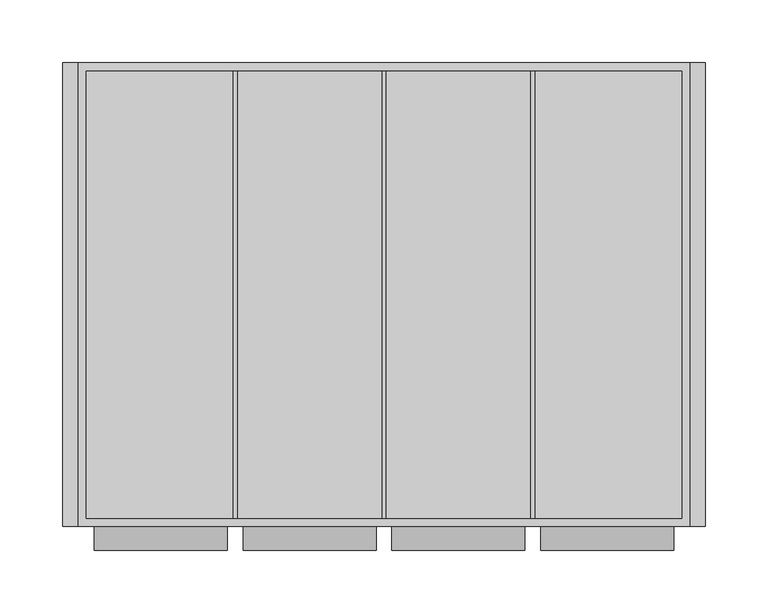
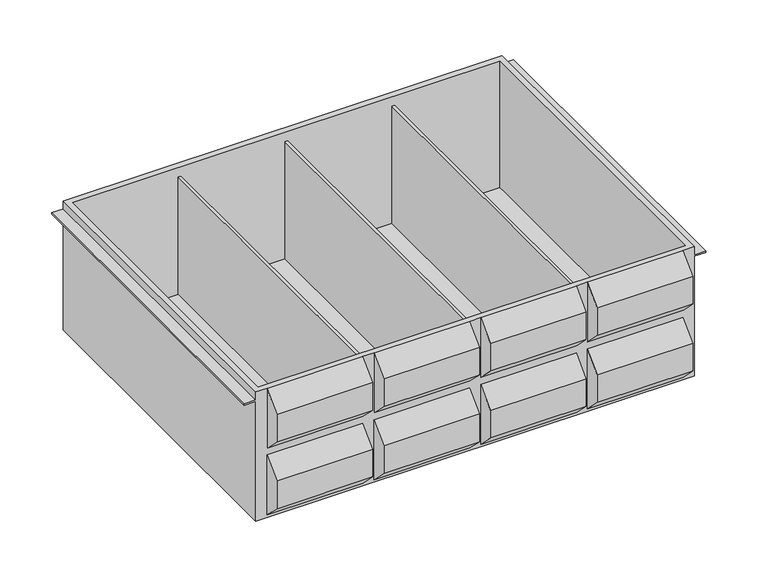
"""IFC4 building model written with IfcOpenShell, lengths in millimetres: furniture geometry, HermanMiller_CoStruc_CO565_Cassette Assembly : 6H x 15D x 20W."""

import ifcopenshell
import ifcopenshell.guid

model = None  # the IFC model being written
_history = None  # IfcOwnerHistory: only IFC2X3 demands one
_inside = {}  # id of a spatial element -> (the spatial element, [elements in it])
_under = {}  # id of a project, library or spatial element -> (it, [spatial elements below it])
_declared = {}  # id of a project -> (the project, [libraries it declares])
_typed = {}  # id of a type object -> (the type object, [elements of that type])
_made_of = {}  # id of a material, layer set ... -> (it, [elements and type objects made of it])


def new_model(schema):
    """Start an empty IFC model of exactly this schema.

    Asked for "IFC4X3", IfcOpenShell would pick the latest addendum, in which some entities
    have other attributes; the version numbers below select the first issue.
    IFC2X3 requires an IfcOwnerHistory on every rooted entity: one is made here for all.
    """
    global model, _history
    if schema == "IFC4X3":
        model = ifcopenshell.file(schema_version=(4, 3, 0, 0))
    else:
        model = ifcopenshell.file(schema=schema)
    _inside.clear()
    _under.clear()
    _declared.clear()
    _typed.clear()
    _made_of.clear()
    _history = None
    if model.schema == "IFC2X3":
        org = make("IfcOrganization", Name="unknown")
        user = make(
            "IfcPersonAndOrganization",
            ThePerson=make("IfcPerson", FamilyName="unknown"),
            TheOrganization=org,
        )
        app = make(
            "IfcApplication",
            ApplicationDeveloper=org,
            Version="unknown",
            ApplicationFullName="unknown",
            ApplicationIdentifier="unknown",
        )
        _history = make(
            "IfcOwnerHistory",
            OwningUser=user,
            OwningApplication=app,
            ChangeAction="ADDED",
            CreationDate=0,
        )
    return model


def make(cls, **values):
    """One entity of the class cls with the attributes given. An attribute that is None is left unset."""
    return model.create_entity(
        cls, **{name: value for name, value in values.items() if value is not None}
    )


def rooted(cls, **values):
    """An entity with a GlobalId (a new one), such as an element, a storey or a relation."""
    return make(cls, GlobalId=ifcopenshell.guid.new(), OwnerHistory=_history, **values)


def si_unit(unit_type, name, prefix=None):
    """IfcSIUnit, for example si_unit("LENGTHUNIT", "METRE", prefix="MILLI")."""
    return make("IfcSIUnit", UnitType=unit_type, Prefix=prefix, Name=name)


def assignment(units):
    """IfcUnitAssignment: the units of a project."""
    return None if units is None else make("IfcUnitAssignment", Units=units)


def point(xyz):
    """IfcCartesianPoint."""
    return None if xyz is None else make("IfcCartesianPoint", Coordinates=xyz)


def direction(xyz):
    """IfcDirection."""
    return None if xyz is None else make("IfcDirection", DirectionRatios=xyz)


def frame(location, z_axis=None, x_axis=None):
    """IfcAxis2Placement3D, a coordinate frame: its origin and axes. An axis left out is left unset."""
    return make(
        "IfcAxis2Placement3D",
        Location=point(location),
        Axis=direction(z_axis),
        RefDirection=direction(x_axis),
    )


def origin():
    """The frame at (0, 0, 0) with its axes left unset."""
    return frame((0.0, 0.0, 0.0))


def place(relative_to, where):
    """IfcLocalPlacement: puts the frame where relative to a parent placement (None: the world)."""
    return make(
        "IfcLocalPlacement", PlacementRelTo=relative_to, RelativePlacement=where
    )


def context(
    kind, dimensions, precision=None, world=None, true_north=None, identifier=None
):
    """IfcGeometricRepresentationContext, for example the 3D "Model" context."""
    return make(
        "IfcGeometricRepresentationContext",
        ContextIdentifier=identifier,
        ContextType=kind,
        CoordinateSpaceDimension=dimensions,
        Precision=precision,
        WorldCoordinateSystem=world,
        TrueNorth=true_north,
    )


def project(units=None, contexts=None):
    """IfcProject with its units and contexts."""
    return rooted(
        "IfcProject",
        Name="project",
        RepresentationContexts=contexts,
        UnitsInContext=assignment(units),
    )


def spatial(cls, under=None, at=None, **own):
    """A site, building, storey or space (cls), placed at a placement, below another one or the project."""
    s = rooted(cls, ObjectPlacement=at, **own)
    if under is not None:
        _under.setdefault(under.id(), (under, []))[1].append(s)
    return s


def faces_of(points, faces, orient=None, outer=None):
    """IfcFace entities. A face is a list of loops; a loop is a list of indices into points, from 0.

    orient and outer hold one flag for each loop. By default every Orientation is true, the
    first loop of a face is its IfcFaceOuterBound and the others are IfcFaceBound.
    """
    made = []
    for i, loops in enumerate(faces):
        bounds = []
        for j, loop in enumerate(loops):
            is_outer = j == 0 if outer is None else outer[i][j]
            bounds.append(
                make(
                    "IfcFaceOuterBound" if is_outer else "IfcFaceBound",
                    Bound=make("IfcPolyLoop", Polygon=[points[k] for k in loop]),
                    Orientation=True if orient is None else orient[i][j],
                )
            )
        made.append(make("IfcFace", Bounds=bounds))
    return made


def faceted_brep(points, faces, orient=None, outer=None, voids=None):
    """IfcFacetedBrep: a solid bounded by flat faces; with voids (closed shells), ...WithVoids."""
    shared = [point(p) for p in points]
    hull = make("IfcClosedShell", CfsFaces=faces_of(shared, faces, orient, outer))
    if voids is None:
        return make("IfcFacetedBrep", Outer=hull)
    return make(
        "IfcFacetedBrepWithVoids",
        Outer=hull,
        Voids=[
            make(cls, CfsFaces=faces_of(shared, fs, o, b)) for cls, fs, o, b in voids
        ],
    )


def shape(context_of_items, identifier, shape_type, items):
    """IfcShapeRepresentation: the items that make up one representation, for example the "Body"."""
    return make(
        "IfcShapeRepresentation",
        ContextOfItems=context_of_items,
        RepresentationIdentifier=identifier,
        RepresentationType=shape_type,
        Items=items,
    )


def source(mapping_origin, context_of_items, identifier, shape_type, items):
    """IfcRepresentationMap: a shape defined once, which mapped items show again and again."""
    return make(
        "IfcRepresentationMap",
        MappingOrigin=mapping_origin,
        MappedRepresentation=shape(context_of_items, identifier, shape_type, items),
    )


def transform(
    local_origin,
    x_axis=None,
    y_axis=None,
    z_axis=None,
    scale=None,
    scale2=None,
    scale3=None,
    uniform=True,
):
    """IfcCartesianTransformationOperator3D, or its non-uniform kind. x_axis, y_axis, z_axis: its Axis1, 2, 3."""
    if uniform:
        return make(
            "IfcCartesianTransformationOperator3D",
            Axis1=direction(x_axis),
            Axis2=direction(y_axis),
            LocalOrigin=point(local_origin),
            Scale=scale,
            Axis3=direction(z_axis),
        )
    return make(
        "IfcCartesianTransformationOperator3DnonUniform",
        Axis1=direction(x_axis),
        Axis2=direction(y_axis),
        LocalOrigin=point(local_origin),
        Scale=scale,
        Axis3=direction(z_axis),
        Scale2=scale2,
        Scale3=scale3,
    )


def mapped(mapping_source, mapping_target):
    """IfcMappedItem: shows the shape of a source again, moved by a transform."""
    return make(
        "IfcMappedItem", MappingSource=mapping_source, MappingTarget=mapping_target
    )


def made_of(thing, what):
    """Note that an element or type object is made of a material, layer set ...; save() writes the relation."""
    if what is not None:
        _made_of.setdefault(what.id(), (what, []))[1].append(thing)
    return thing


def element(
    cls,
    number,
    at=None,
    inside=None,
    cuts=None,
    type_object=None,
    material=None,
    context=None,
    identifier="Body",
    shape_type=None,
    held_by="IfcProductDefinitionShape",
    body=None,
    shapes=None,
    **own,
):
    """One element of the class cls, such as IfcWall. Its Tag is "e" and its number.

    at: its placement. inside: the storey or other place that contains it. cuts: it is an
    opening in that element (IfcRelVoidsElement). A single representation is given by context,
    identifier, shape_type and body (its items); several are given by shapes. held_by: the class
    of the entity that holds the representations. save() writes the other relations.
    """
    e = rooted(cls, Tag="e%d" % number, ObjectPlacement=at, **own)
    if body is not None:
        shapes = [shape(context, identifier, shape_type, body)]
    if shapes is not None:
        e.Representation = make(held_by, Representations=shapes)
    if inside is not None:
        _inside.setdefault(inside.id(), (inside, []))[1].append(e)
    if cuts is not None:
        rooted(
            "IfcRelVoidsElement", RelatingBuildingElement=cuts, RelatedOpeningElement=e
        )
    if type_object is not None:
        _typed.setdefault(type_object.id(), (type_object, []))[1].append(e)
    return made_of(e, material)


def aggregate(whole, parts):
    """IfcRelAggregates: a whole, such as a stair, and the parts it consists of."""
    return rooted("IfcRelAggregates", RelatingObject=whole, RelatedObjects=parts)


def save(model, path):
    """Write the relations noted so far, then the file.

    IfcRelAggregates (storeys below a building ...), IfcRelContainedInSpatialStructure (elements
    in a storey), IfcRelDefinesByType, IfcRelAssociatesMaterial and IfcRelDeclares: one each for
    every whole, place, type object, material and project.
    """
    for whole, parts in _under.values():
        aggregate(whole, parts)
    for where, things in _inside.values():
        rooted(
            "IfcRelContainedInSpatialStructure",
            RelatedElements=things,
            RelatingStructure=where,
        )
    for kind, things in _typed.values():
        rooted("IfcRelDefinesByType", RelatedObjects=things, RelatingType=kind)
    for what, things in _made_of.values():
        rooted("IfcRelAssociatesMaterial", RelatedObjects=things, RelatingMaterial=what)
    for by, libraries in _declared.values():
        rooted("IfcRelDeclares", RelatingContext=by, RelatedDefinitions=libraries)
    model.write(path)


def furniture_37b7cd53(model_context):
    return source(origin(), model_context, "Body", "Brep", [
        faceted_brep([(-238.125, -176.2125, 1001.7252), (-250.825, -176.2125, 1001.7252), (-250.825, -176.2125, 992.2129), (-263.525, -176.2125, 992.2129), (-263.525, -176.2125, 990.6254), (-250.825, -176.2125, 990.6254), (-250.825, -176.2125, 849.3252), (238.125, -176.2125, 849.3252), (238.125, -176.2125, 990.6254), (250.825, -176.2125, 990.6254), (250.825, -176.2125, 992.2129), (238.125, -176.2125, 992.2129), (238.125, -176.2125, 1001.7252), (225.425, -176.2125, 1001.7252), (225.425, -176.2125, 931.1369237), (119.0625, -176.2125, 931.1369237), (119.0625, -176.2125, 1001.7252), (106.3625, -176.2125, 1001.7252), (106.3625, -176.2125, 931.1369237), (0.0, -176.2125, 931.1369237), (0.0, -176.2125, 1001.7252), (-12.7, -176.2125, 1001.7252), (-12.7, -176.2125, 931.1369237), (-119.0625, -176.2125, 931.1369237), (-119.0625, -176.2125, 1001.7252), (-131.7625, -176.2125, 1001.7252), (-131.7625, -176.2125, 931.1369237), (-238.125, -176.2125, 931.1369237), (-131.7625, -176.2125, 922.9396481), (-131.7625, -176.2125, 852.3513719), (-238.125, -176.2125, 852.3513719), (-238.125, -176.2125, 922.9396481), (-119.0625, -176.2125, 852.3513719), (-119.0625, -176.2125, 922.9396481), (-12.7, -176.2125, 922.9396481), (-12.7, -176.2125, 852.3513719), (106.3625, -176.2125, 922.9396481), (106.3625, -176.2125, 852.3513719), (0.0, -176.2125, 852.3513719), (0.0, -176.2125, 922.9396481), (119.0625, -176.2125, 852.3513719), (119.0625, -176.2125, 922.9396481), (225.425, -176.2125, 922.9396481), (225.425, -176.2125, 852.3513719), (-250.825, 195.2625, 1001.7252), (238.125, 195.2625, 1001.7252), (238.125, 195.2625, 992.2129), (250.825, 195.2625, 992.2129), (250.825, 195.2625, 990.6254), (238.125, 195.2625, 990.6254), (238.125, 195.2625, 849.3252), (-250.825, 195.2625, 849.3252), (-250.825, 195.2625, 990.6254), (-263.525, 195.2625, 990.6254), (-263.525, 195.2625, 992.2129), (-250.825, 195.2625, 992.2129), (231.775, -169.8625, 1001.7252), (-244.475, -169.8625, 1001.7252), (-244.475, 188.2775, 1001.7252), (231.775, 188.2775, 1001.7252), (-131.7625, -195.2625, 871.4013719), (-131.7625, -195.2625, 903.8896481), (-131.7625, -195.2625, 982.6752), (-131.7625, -195.2625, 950.1869237), (-238.125, -195.2625, 871.4013719), (-238.125, -195.2625, 903.8896481), (-238.125, -195.2625, 950.1869237), (-238.125, -195.2625, 982.6752), (231.775, -169.8625, 852.3513719), (231.775, 188.2775, 852.3513719), (114.3, 188.2775, 852.3513719), (114.3, -169.8625, 852.3513719), (-244.475, 188.2775, 852.3513719), (-244.475, -169.8625, 852.3513719), (-127.0, -169.8625, 852.3513719), (-127.0, 188.2775, 852.3513719), (-4.7625, -169.8625, 852.3513719), (111.125, -169.8625, 852.3513719), (111.125, 188.2775, 852.3513719), (-4.7625, 188.2775, 852.3513719), (-123.825, -169.8625, 852.3513719), (-7.9375, -169.8625, 852.3513719), (-7.9375, 188.2775, 852.3513719), (-123.825, 188.2775, 852.3513719), (114.3, -169.8625, 990.6254), (111.125, -169.8625, 990.6254), (-4.7625, -169.8625, 990.6254), (-7.9375, -169.8625, 990.6254), (-123.825, -169.8625, 990.6254), (-127.0, -169.8625, 990.6254), (-127.0, 188.2775, 990.6254), (-123.825, 188.2775, 990.6254), (-7.9375, 188.2775, 990.6254), (-4.7625, 188.2775, 990.6254), (111.125, 188.2775, 990.6254), (114.3, 188.2775, 990.6254), (-119.0625, -195.2625, 871.4013719), (-119.0625, -195.2625, 903.8896481), (-119.0625, -195.2625, 950.1869237), (-119.0625, -195.2625, 982.6752), (-12.7, -195.2625, 871.4013719), (-12.7, -195.2625, 903.8896481), (-12.7, -195.2625, 982.6752), (-12.7, -195.2625, 950.1869237), (106.3625, -195.2625, 871.4013719), (106.3625, -195.2625, 903.8896481), (106.3625, -195.2625, 982.6752), (106.3625, -195.2625, 950.1869237), (0.0, -195.2625, 871.4013719), (0.0, -195.2625, 903.8896481), (0.0, -195.2625, 950.1869237), (0.0, -195.2625, 982.6752), (119.0625, -195.2625, 871.4013719), (119.0625, -195.2625, 903.8896481), (119.0625, -195.2625, 950.1869237), (119.0625, -195.2625, 982.6752), (225.425, -195.2625, 871.4013719), (225.425, -195.2625, 903.8896481), (225.425, -195.2625, 982.6752), (225.425, -195.2625, 950.1869237)], [[[0, 1, 2, 3, 4, 5, 6, 7, 8, 9, 10, 11, 12, 13, 14, 15, 16, 17, 18, 19, 20, 21, 22, 23, 24, 25, 26, 27], [28, 29, 30, 31], [32, 33, 34, 35], [36, 37, 38, 39], [40, 41, 42, 43]], [[44, 45, 46, 47, 48, 49, 50, 51, 52, 53, 54, 55]], [[51, 50, 7, 6]], [[7, 50, 49, 8]], [[45, 12, 11, 46]], [[45, 44, 1, 0, 25, 24, 21, 20, 17, 16, 13, 12], [56, 57, 58, 59]], [[51, 6, 5, 52]], [[1, 44, 55, 2]], [[60, 29, 28, 61]], [[25, 62, 63, 26]], [[64, 65, 31, 30]], [[27, 66, 67, 0]], [[29, 60, 64, 30]], [[62, 25, 0, 67]], [[63, 62, 67, 66]], [[26, 63, 66, 27]], [[61, 28, 31, 65]], [[60, 61, 65, 64]], [[68, 69, 70, 71]], [[72, 73, 74, 75]], [[76, 77, 78, 79]], [[80, 81, 82, 83]], [[56, 68, 71, 84, 85, 77, 76, 86, 87, 81, 80, 88, 89, 74, 73, 57]], [[69, 68, 56, 59]], [[69, 59, 58, 72, 75, 90, 91, 83, 82, 92, 93, 79, 78, 94, 95, 70]], [[73, 72, 58, 57]], [[96, 97, 33, 32]], [[23, 98, 99, 24]], [[100, 35, 34, 101]], [[21, 102, 103, 22]], [[97, 96, 100, 101]], [[33, 97, 101, 34]], [[98, 23, 22, 103]], [[99, 98, 103, 102]], [[24, 99, 102, 21]], [[96, 32, 35, 100]], [[104, 37, 36, 105]], [[17, 106, 107, 18]], [[108, 109, 39, 38]], [[19, 110, 111, 20]], [[37, 104, 108, 38]], [[106, 17, 20, 111]], [[107, 106, 111, 110]], [[18, 107, 110, 19]], [[105, 36, 39, 109]], [[104, 105, 109, 108]], [[112, 113, 41, 40]], [[15, 114, 115, 16]], [[116, 43, 42, 117]], [[13, 118, 119, 14]], [[113, 112, 116, 117]], [[41, 113, 117, 42]], [[114, 15, 14, 119]], [[115, 114, 119, 118]], [[16, 115, 118, 13]], [[112, 40, 43, 116]], [[54, 53, 4, 3]], [[55, 54, 3, 2]], [[53, 52, 5, 4]], [[49, 48, 9, 8]], [[47, 46, 11, 10]], [[48, 47, 10, 9]], [[88, 91, 90, 89]], [[84, 95, 94, 85]], [[86, 93, 92, 87]], [[91, 88, 80, 83]], [[89, 90, 75, 74]], [[95, 84, 71, 70]], [[85, 94, 78, 77]], [[93, 86, 76, 79]], [[87, 92, 82, 81]]]),
    ])


if __name__ == "__main__":
    model = new_model("IFC4")
    model_context = context("Model", 3, world=origin())
    ifc_project = project(units=[si_unit("LENGTHUNIT", "METRE", prefix="MILLI")], contexts=[model_context])
    site = spatial("IfcSite", under=ifc_project)
    building = spatial("IfcBuilding", under=site)
    placement = place(None, origin())
    furniture_shape = furniture_37b7cd53(model_context)
    element("IfcFurniture", 1, ObjectType="HermanMiller_CoStruc_CO565_Cassette Assembly : 6H x 15D x 20W", at=placement, inside=building, context=model_context, shape_type="MappedRepresentation", body=[
        mapped(furniture_shape, transform((0.0, 0.0, 0.0), x_axis=(1.0, 0.0, 0.0), y_axis=(0.0, 1.0, 0.0), z_axis=(0.0, 0.0, 1.0))),
    ])
    save(model, "model.ifc")
